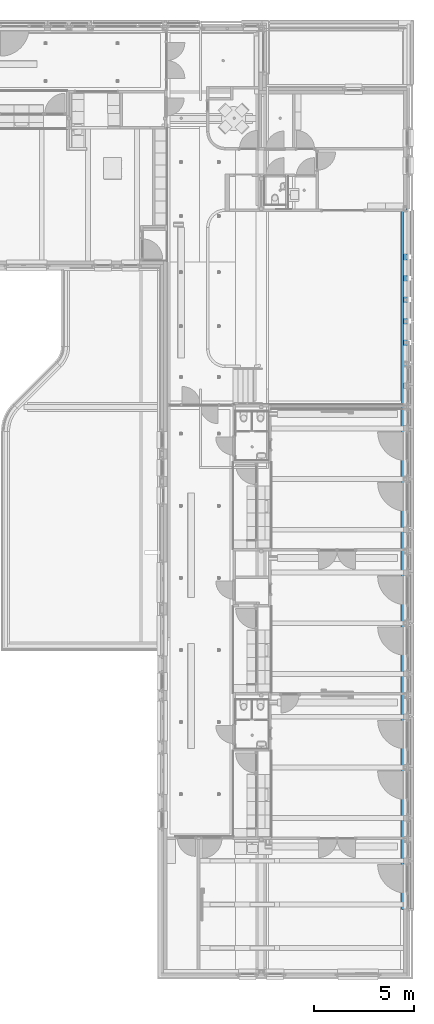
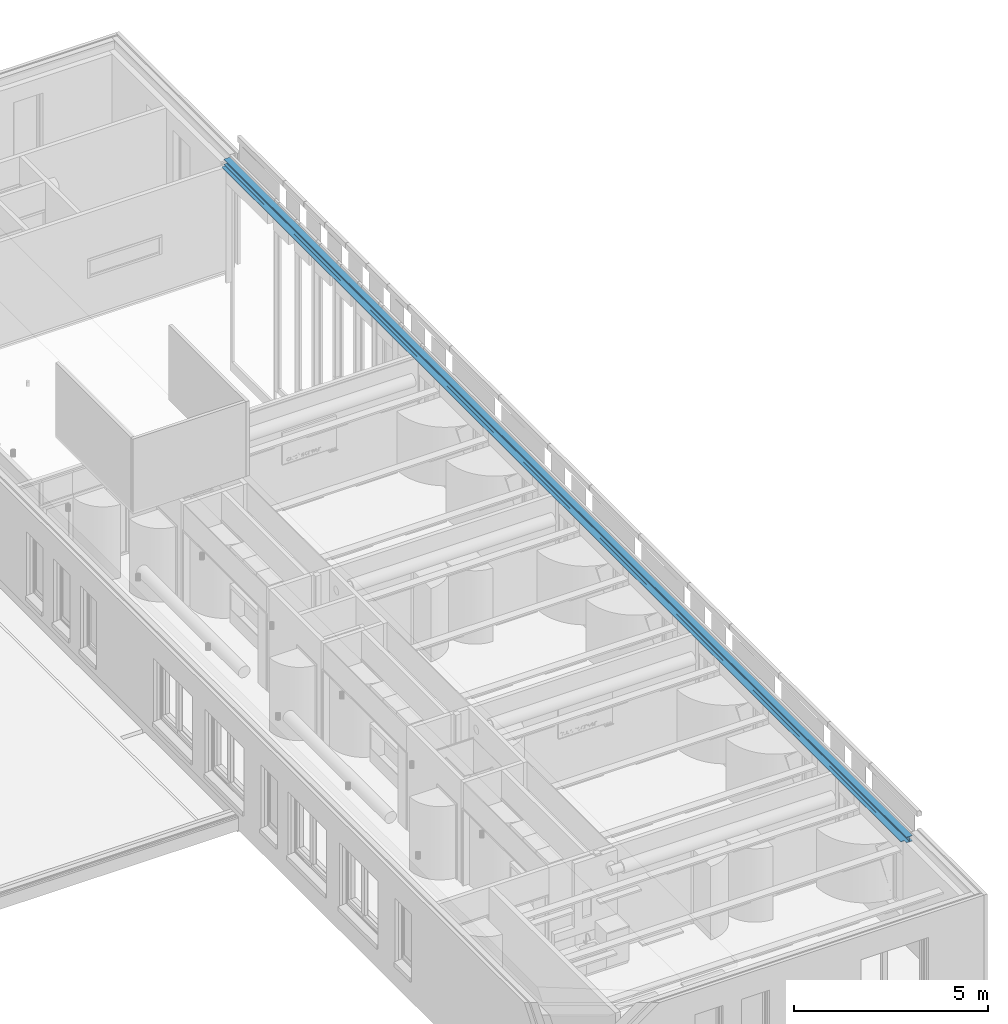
# One storey, part 10 of 128: 1 beam.
"""IFC2X3 building model written with IfcOpenShell, lengths in millimetres."""

import ifcopenshell
import ifcopenshell.guid

model = None  # the IFC model being written
_history = None  # IfcOwnerHistory: only IFC2X3 demands one
_inside = {}  # id of a spatial element -> (the spatial element, [elements in it])
_under = {}  # id of a project, library or spatial element -> (it, [spatial elements below it])
_declared = {}  # id of a project -> (the project, [libraries it declares])
_typed = {}  # id of a type object -> (the type object, [elements of that type])
_made_of = {}  # id of a material, layer set ... -> (it, [elements and type objects made of it])


def new_model(schema):
    """Start an empty IFC model of exactly this schema.

    Asked for "IFC4X3", IfcOpenShell would pick the latest addendum, in which some entities
    have other attributes; the version numbers below select the first issue.
    IFC2X3 requires an IfcOwnerHistory on every rooted entity: one is made here for all.
    """
    global model, _history
    if schema == "IFC4X3":
        model = ifcopenshell.file(schema_version=(4, 3, 0, 0))
    else:
        model = ifcopenshell.file(schema=schema)
    _inside.clear()
    _under.clear()
    _declared.clear()
    _typed.clear()
    _made_of.clear()
    _history = None
    if model.schema == "IFC2X3":
        org = make("IfcOrganization", Name="unknown")
        user = make(
            "IfcPersonAndOrganization",
            ThePerson=make("IfcPerson", FamilyName="unknown"),
            TheOrganization=org,
        )
        app = make(
            "IfcApplication",
            ApplicationDeveloper=org,
            Version="unknown",
            ApplicationFullName="unknown",
            ApplicationIdentifier="unknown",
        )
        _history = make(
            "IfcOwnerHistory",
            OwningUser=user,
            OwningApplication=app,
            ChangeAction="ADDED",
            CreationDate=0,
        )
    return model


def make(cls, **values):
    """One entity of the class cls with the attributes given. An attribute that is None is left unset."""
    return model.create_entity(
        cls, **{name: value for name, value in values.items() if value is not None}
    )


def entity(cls, *values):
    """Any entity or typed value of the class cls, its attributes in the order of the schema. None: left unset."""
    e = model.create_entity(cls)
    for i, value in enumerate(values):
        if value is not None:
            e[i] = value
    return e


def rooted(cls, **values):
    """An entity with a GlobalId (a new one), such as an element, a storey or a relation."""
    return make(cls, GlobalId=ifcopenshell.guid.new(), OwnerHistory=_history, **values)


def si_unit(unit_type, name, prefix=None):
    """IfcSIUnit, for example si_unit("LENGTHUNIT", "METRE", prefix="MILLI")."""
    return make("IfcSIUnit", UnitType=unit_type, Prefix=prefix, Name=name)


def converted_unit(unit_type, name, factor, base, dimensions=None, offset=None):
    """IfcConversionBasedUnit, such as the inch: factor (a typed value) times the base unit."""
    return make(
        "IfcConversionBasedUnit"
        if offset is None
        else "IfcConversionBasedUnitWithOffset",
        ConversionOffset=offset,
        Dimensions=None
        if dimensions is None
        else entity("IfcDimensionalExponents", *dimensions),
        UnitType=unit_type,
        Name=name,
        ConversionFactor=make(
            "IfcMeasureWithUnit", ValueComponent=factor, UnitComponent=base
        ),
    )


def derived_unit(unit_type, elements):
    """IfcDerivedUnit: a product of units, each with its exponent."""
    return make(
        "IfcDerivedUnit",
        Elements=[
            make("IfcDerivedUnitElement", Unit=unit, Exponent=power)
            for unit, power in elements
        ],
        UnitType=unit_type,
    )


def assignment(units):
    """IfcUnitAssignment: the units of a project."""
    return None if units is None else make("IfcUnitAssignment", Units=units)


def point(xyz):
    """IfcCartesianPoint."""
    return None if xyz is None else make("IfcCartesianPoint", Coordinates=xyz)


def direction(xyz):
    """IfcDirection."""
    return None if xyz is None else make("IfcDirection", DirectionRatios=xyz)


def frame(location, z_axis=None, x_axis=None):
    """IfcAxis2Placement3D, a coordinate frame: its origin and axes. An axis left out is left unset."""
    return make(
        "IfcAxis2Placement3D",
        Location=point(location),
        Axis=direction(z_axis),
        RefDirection=direction(x_axis),
    )


def frame_2d(location, x_axis=None):
    """IfcAxis2Placement2D, a coordinate frame in the plane: its origin and x axis."""
    return make(
        "IfcAxis2Placement2D", Location=point(location), RefDirection=direction(x_axis)
    )


def origin():
    """The frame at (0, 0, 0) with its axes left unset."""
    return frame((0.0, 0.0, 0.0))


def origin_2d_with_axis():
    """The frame at (0, 0) in the plane with the x axis (1, 0) written out."""
    return frame_2d((0.0, 0.0), x_axis=(1.0, 0.0))


def place(relative_to, where):
    """IfcLocalPlacement: puts the frame where relative to a parent placement (None: the world)."""
    return make(
        "IfcLocalPlacement", PlacementRelTo=relative_to, RelativePlacement=where
    )


def context(
    kind, dimensions, precision=None, world=None, true_north=None, identifier=None
):
    """IfcGeometricRepresentationContext, for example the 3D "Model" context."""
    return make(
        "IfcGeometricRepresentationContext",
        ContextIdentifier=identifier,
        ContextType=kind,
        CoordinateSpaceDimension=dimensions,
        Precision=precision,
        WorldCoordinateSystem=world,
        TrueNorth=true_north,
    )


def subcontext(parent, identifier, kind, view, scale=None):
    """IfcGeometricRepresentationSubContext, for example "Body" below "Model"."""
    return make(
        "IfcGeometricRepresentationSubContext",
        ContextIdentifier=identifier,
        ContextType=kind,
        ParentContext=parent,
        TargetScale=scale,
        TargetView=view,
    )


def project(units=None, contexts=None):
    """IfcProject with its units and contexts."""
    return rooted(
        "IfcProject",
        Name="project",
        RepresentationContexts=contexts,
        UnitsInContext=assignment(units),
    )


def spatial(cls, under=None, at=None, **own):
    """A site, building, storey or space (cls), placed at a placement, below another one or the project."""
    s = rooted(cls, ObjectPlacement=at, **own)
    if under is not None:
        _under.setdefault(under.id(), (under, []))[1].append(s)
    return s


def polyline(points):
    """IfcPolyline through the points."""
    return make("IfcPolyline", Points=[point(p) for p in points])


def circle_curve(where, radius):
    """IfcCircle in the frame where."""
    return make("IfcCircle", Position=where, Radius=radius)


def parameter(value):
    """IfcParameterValue: where a trimmed curve begins or ends, as a parameter of its basis curve."""
    return model.create_entity("IfcParameterValue", value)


def trimmed(basis, trim1, trim2, sense, master):
    """IfcTrimmedCurve: the piece of a basis curve between two trims."""
    return make(
        "IfcTrimmedCurve",
        BasisCurve=basis,
        Trim1=trim1,
        Trim2=trim2,
        SenseAgreement=sense,
        MasterRepresentation=master,
    )


def segment(curve, same_sense, transition):
    """IfcCompositeCurveSegment."""
    return make(
        "IfcCompositeCurveSegment",
        Transition=transition,
        SameSense=same_sense,
        ParentCurve=curve,
    )


def composite_curve(segments, self_intersect=None):
    """IfcCompositeCurve: segments joined end to end."""
    return make("IfcCompositeCurve", Segments=segments, SelfIntersect=self_intersect)


def profile(cls, at=None, kind="AREA", **sizes):
    """A parametric profile (cls). Its sizes go by their IFC names, for example OverallWidth=200.0."""
    return make(cls, ProfileType=kind, Position=at, **sizes)


def rectangle(**sizes):
    """IfcRectangleProfileDef."""
    return profile("IfcRectangleProfileDef", **sizes)


def outline(outer, holes=None, kind="AREA"):
    """IfcArbitraryClosedProfileDef: a profile drawn as a closed curve; with holes, ...WithVoids."""
    if holes is None:
        return make("IfcArbitraryClosedProfileDef", ProfileType=kind, OuterCurve=outer)
    return make(
        "IfcArbitraryProfileDefWithVoids",
        ProfileType=kind,
        OuterCurve=outer,
        InnerCurves=holes,
    )


def extrude(swept, where, along, depth):
    """IfcExtrudedAreaSolid: the profile swept, set in the frame where, extruded along a direction by depth."""
    return make(
        "IfcExtrudedAreaSolid",
        SweptArea=swept,
        Position=where,
        ExtrudedDirection=direction(along),
        Depth=depth,
    )


def shape(context_of_items, identifier, shape_type, items):
    """IfcShapeRepresentation: the items that make up one representation, for example the "Body"."""
    return make(
        "IfcShapeRepresentation",
        ContextOfItems=context_of_items,
        RepresentationIdentifier=identifier,
        RepresentationType=shape_type,
        Items=items,
    )


def source(mapping_origin, context_of_items, identifier, shape_type, items):
    """IfcRepresentationMap: a shape defined once, which mapped items show again and again."""
    return make(
        "IfcRepresentationMap",
        MappingOrigin=mapping_origin,
        MappedRepresentation=shape(context_of_items, identifier, shape_type, items),
    )


def transform(
    local_origin,
    x_axis=None,
    y_axis=None,
    z_axis=None,
    scale=None,
    scale2=None,
    scale3=None,
    uniform=True,
):
    """IfcCartesianTransformationOperator3D, or its non-uniform kind. x_axis, y_axis, z_axis: its Axis1, 2, 3."""
    if uniform:
        return make(
            "IfcCartesianTransformationOperator3D",
            Axis1=direction(x_axis),
            Axis2=direction(y_axis),
            LocalOrigin=point(local_origin),
            Scale=scale,
            Axis3=direction(z_axis),
        )
    return make(
        "IfcCartesianTransformationOperator3DnonUniform",
        Axis1=direction(x_axis),
        Axis2=direction(y_axis),
        LocalOrigin=point(local_origin),
        Scale=scale,
        Axis3=direction(z_axis),
        Scale2=scale2,
        Scale3=scale3,
    )


def mapped(mapping_source, mapping_target):
    """IfcMappedItem: shows the shape of a source again, moved by a transform."""
    return make(
        "IfcMappedItem", MappingSource=mapping_source, MappingTarget=mapping_target
    )


def material(Name=None, Category=None):
    """IfcMaterial."""
    return make("IfcMaterial", Name=Name, Category=Category)


def made_of(thing, what):
    """Note that an element or type object is made of a material, layer set ...; save() writes the relation."""
    if what is not None:
        _made_of.setdefault(what.id(), (what, []))[1].append(thing)
    return thing


def type_object(cls, material=None, **own):
    """A type object (cls), such as IfcWallType, which elements share."""
    return made_of(rooted(cls, **own), material)


def type_shapes(of_type, sources):
    """Give a type object the sources (RepresentationMaps) that its elements show as mapped items."""
    of_type.RepresentationMaps = sources


def element(
    cls,
    number,
    at=None,
    inside=None,
    cuts=None,
    type_object=None,
    material=None,
    context=None,
    identifier="Body",
    shape_type=None,
    held_by="IfcProductDefinitionShape",
    body=None,
    shapes=None,
    **own,
):
    """One element of the class cls, such as IfcWall. Its Tag is "e" and its number.

    at: its placement. inside: the storey or other place that contains it. cuts: it is an
    opening in that element (IfcRelVoidsElement). A single representation is given by context,
    identifier, shape_type and body (its items); several are given by shapes. held_by: the class
    of the entity that holds the representations. save() writes the other relations.
    """
    e = rooted(cls, Tag="e%d" % number, ObjectPlacement=at, **own)
    if body is not None:
        shapes = [shape(context, identifier, shape_type, body)]
    if shapes is not None:
        e.Representation = make(held_by, Representations=shapes)
    if inside is not None:
        _inside.setdefault(inside.id(), (inside, []))[1].append(e)
    if cuts is not None:
        rooted(
            "IfcRelVoidsElement", RelatingBuildingElement=cuts, RelatedOpeningElement=e
        )
    if type_object is not None:
        _typed.setdefault(type_object.id(), (type_object, []))[1].append(e)
    return made_of(e, material)


def aggregate(whole, parts):
    """IfcRelAggregates: a whole, such as a stair, and the parts it consists of."""
    return rooted("IfcRelAggregates", RelatingObject=whole, RelatedObjects=parts)


def save(model, path):
    """Write the relations noted so far, then the file.

    IfcRelAggregates (storeys below a building ...), IfcRelContainedInSpatialStructure (elements
    in a storey), IfcRelDefinesByType, IfcRelAssociatesMaterial and IfcRelDeclares: one each for
    every whole, place, type object, material and project.
    """
    for whole, parts in _under.values():
        aggregate(whole, parts)
    for where, things in _inside.values():
        rooted(
            "IfcRelContainedInSpatialStructure",
            RelatedElements=things,
            RelatingStructure=where,
        )
    for kind, things in _typed.values():
        rooted("IfcRelDefinesByType", RelatedObjects=things, RelatingType=kind)
    for what, things in _made_of.values():
        rooted("IfcRelAssociatesMaterial", RelatedObjects=things, RelatingMaterial=what)
    for by, libraries in _declared.values():
        rooted("IfcRelDeclares", RelatingContext=by, RelatedDefinitions=libraries)
    model.write(path)


model = new_model("IFC2X3")

# Units and contexts
model_context = context("Model", 3, precision=0.01, world=origin(), true_north=direction((6.123031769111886e-17, 1.0)))
body_context = subcontext(model_context, "Body", "Model", "MODEL_VIEW")
ifc_project = project(units=[si_unit("LENGTHUNIT", "METRE", prefix="MILLI"), si_unit("AREAUNIT", "SQUARE_METRE"), si_unit("VOLUMEUNIT", "CUBIC_METRE"), converted_unit("PLANEANGLEUNIT", "DEGREE", entity("IfcRatioMeasure", 0.017453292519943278), si_unit("PLANEANGLEUNIT", "RADIAN"), dimensions=[0, 0, 0, 0, 0, 0, 0]), si_unit("MASSUNIT", "GRAM", prefix="KILO"), derived_unit("MASSDENSITYUNIT", [(si_unit("MASSUNIT", "GRAM", prefix="KILO"), 1), (si_unit("LENGTHUNIT", "METRE"), -3)]), derived_unit("IONCONCENTRATIONUNIT", [(si_unit("MASSUNIT", "GRAM", prefix="KILO"), 1), (si_unit("LENGTHUNIT", "METRE"), -3)]), derived_unit("MOMENTOFINERTIAUNIT", [(si_unit("LENGTHUNIT", "METRE"), 4)]), si_unit("TIMEUNIT", "SECOND"), si_unit("FREQUENCYUNIT", "HERTZ"), si_unit("THERMODYNAMICTEMPERATUREUNIT", "DEGREE_CELSIUS"), derived_unit("THERMALTRANSMITTANCEUNIT", [(si_unit("MASSUNIT", "GRAM", prefix="KILO"), 1), (si_unit("THERMODYNAMICTEMPERATUREUNIT", "KELVIN"), -1), (si_unit("TIMEUNIT", "SECOND"), -3)]), derived_unit("THERMALCONDUCTANCEUNIT", [(si_unit("MASSUNIT", "GRAM", prefix="KILO"), 1), (si_unit("THERMODYNAMICTEMPERATUREUNIT", "KELVIN"), -1), (si_unit("TIMEUNIT", "SECOND"), -3), (si_unit("LENGTHUNIT", "METRE"), 1)]), derived_unit("VOLUMETRICFLOWRATEUNIT", [(si_unit("LENGTHUNIT", "METRE"), 3), (si_unit("TIMEUNIT", "SECOND"), -1)]), derived_unit("MASSFLOWRATEUNIT", [(si_unit("MASSUNIT", "GRAM", prefix="KILO"), 1), (si_unit("TIMEUNIT", "SECOND"), -1)]), derived_unit("ROTATIONALFREQUENCYUNIT", [(si_unit("TIMEUNIT", "SECOND"), -1)]), si_unit("ELECTRICCURRENTUNIT", "AMPERE"), si_unit("ELECTRICVOLTAGEUNIT", "VOLT"), si_unit("POWERUNIT", "WATT"), si_unit("FORCEUNIT", "NEWTON", prefix="KILO"), si_unit("ILLUMINANCEUNIT", "LUX"), si_unit("LUMINOUSFLUXUNIT", "LUMEN"), si_unit("LUMINOUSINTENSITYUNIT", "CANDELA"), derived_unit("USERDEFINED", [(si_unit("MASSUNIT", "GRAM", prefix="KILO"), -1), (si_unit("LENGTHUNIT", "METRE"), -2), (si_unit("TIMEUNIT", "SECOND"), 3), (si_unit("LUMINOUSFLUXUNIT", "LUMEN"), 1)]), derived_unit("USERDEFINED", [(si_unit("MASSUNIT", "GRAM", prefix="KILO"), 1), (si_unit("TIMEUNIT", "SECOND"), -3), (si_unit("LENGTHUNIT", "METRE"), 3), (si_unit("ELECTRICCURRENTUNIT", "AMPERE"), -2)]), derived_unit("SOUNDPOWERUNIT", [(si_unit("MASSUNIT", "GRAM", prefix="KILO"), 1), (si_unit("TIMEUNIT", "SECOND"), -3), (si_unit("LENGTHUNIT", "METRE"), 2)]), derived_unit("SOUNDPRESSUREUNIT", [(si_unit("MASSUNIT", "GRAM", prefix="KILO"), 1), (si_unit("LENGTHUNIT", "METRE"), -1), (si_unit("TIMEUNIT", "SECOND"), -2)]), derived_unit("LINEARVELOCITYUNIT", [(si_unit("LENGTHUNIT", "METRE"), 1), (si_unit("TIMEUNIT", "SECOND"), -1)]), si_unit("PRESSUREUNIT", "PASCAL"), derived_unit("USERDEFINED", [(si_unit("MASSUNIT", "GRAM", prefix="KILO"), 1), (si_unit("LENGTHUNIT", "METRE"), -2), (si_unit("TIMEUNIT", "SECOND"), -2)]), derived_unit("LINEARFORCEUNIT", [(si_unit("MASSUNIT", "GRAM", prefix="KILO"), 1), (si_unit("TIMEUNIT", "SECOND"), -2)]), derived_unit("PLANARFORCEUNIT", [(si_unit("MASSUNIT", "GRAM", prefix="KILO"), 1), (si_unit("LENGTHUNIT", "METRE"), -1), (si_unit("TIMEUNIT", "SECOND"), -2)]), derived_unit("SPECIFICHEATCAPACITYUNIT", [(si_unit("THERMODYNAMICTEMPERATUREUNIT", "KELVIN"), -1), (si_unit("LENGTHUNIT", "METRE"), 2), (si_unit("TIMEUNIT", "SECOND"), -2)]), derived_unit("HEATINGVALUEUNIT", [(si_unit("LENGTHUNIT", "METRE"), 2), (si_unit("TIMEUNIT", "SECOND"), -2)]), derived_unit("VAPORPERMEABILITYUNIT", [(si_unit("LENGTHUNIT", "METRE"), -1), (si_unit("TIMEUNIT", "SECOND"), 1)]), derived_unit("DYNAMICVISCOSITYUNIT", [(si_unit("MASSUNIT", "GRAM", prefix="KILO"), 1), (si_unit("TIMEUNIT", "SECOND"), -1), (si_unit("LENGTHUNIT", "METRE"), -1)]), derived_unit("THERMALEXPANSIONCOEFFICIENTUNIT", [(si_unit("THERMODYNAMICTEMPERATUREUNIT", "KELVIN"), -1)]), derived_unit("MODULUSOFELASTICITYUNIT", [(si_unit("MASSUNIT", "GRAM", prefix="KILO"), 1), (si_unit("LENGTHUNIT", "METRE"), -1), (si_unit("TIMEUNIT", "SECOND"), -2)]), derived_unit("ISOTHERMALMOISTURECAPACITYUNIT", [(si_unit("LENGTHUNIT", "METRE"), 3), (si_unit("MASSUNIT", "GRAM", prefix="KILO"), -1)]), derived_unit("MOISTUREDIFFUSIVITYUNIT", [(si_unit("TIMEUNIT", "SECOND"), -1), (si_unit("LENGTHUNIT", "METRE"), 2)])], contexts=[model_context])

# Site, building, storey
site_placement = place(None, frame((0.0, 300.0, 0.0)))
site = spatial("IfcSite", under=ifc_project, at=site_placement, Name="<Kadastrale nummers>", CompositionType="ELEMENT")
building_placement = place(site_placement, origin())
building = spatial("IfcBuilding", under=site, at=building_placement, CompositionType="ELEMENT")
storey_placement = place(building_placement, frame((0.0, 0.0, 3560.0000331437)))
storey = spatial("IfcBuildingStorey", under=building, at=storey_placement, Name="01 eerste verdieping", CompositionType="ELEMENT", Elevation=3560.0000331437)

# Beam
ifc_material = material(Name="h2_staal S235")
beam_type = type_object("IfcBeamType", Name="NLRS_28_SF_LIB_balk sfb_gen_ISR:balk gen hea180 400x15", PredefinedType="T_BEAM", material=ifc_material)
shared_shape = source(origin(), body_context, "Body", "SweptSolid", [
    extrude(outline(composite_curve([segment(polyline([(76.0, -90.0), (85.49999999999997, -90.0)]), True, "CONTINUOUS"), segment(polyline([(85.49999999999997, -90.0), (85.49999999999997, 90.0)]), True, "CONTINUOUS"), segment(polyline([(85.49999999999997, 90.0), (76.0, 90.0)]), True, "CONTINUOUS"), segment(polyline([(76.0, 90.0), (76.0, 18.0)]), True, "CONTINUOUS"), segment(trimmed(circle_curve(frame_2d((61.0, 18.0), x_axis=(1.0, 0.0)), 15.000000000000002), [parameter(269.99999999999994)], [parameter(0.0)], True, "PARAMETER"), False, "CONTINUOUS"), segment(polyline([(61.0, 3.0), (-61.0, 3.0)]), True, "CONTINUOUS"), segment(trimmed(circle_curve(frame_2d((-61.0, 18.0), x_axis=(0.0, -1.0)), 15.000000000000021), [parameter(269.9999999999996)], [parameter(0.0)], True, "PARAMETER"), False, "CONTINUOUS"), segment(polyline([(-76.0, 18.0), (-76.0, 90.0)]), True, "CONTINUOUS"), segment(polyline([(-76.0, 90.0), (-85.49999999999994, 90.0)]), True, "CONTINUOUS"), segment(polyline([(-85.49999999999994, 90.0), (-85.49999999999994, -90.0)]), True, "CONTINUOUS"), segment(polyline([(-85.49999999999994, -90.0), (-76.0, -90.0)]), True, "CONTINUOUS"), segment(polyline([(-76.0, -90.0), (-76.0, -18.0)]), True, "CONTINUOUS"), segment(trimmed(circle_curve(frame_2d((-61.0, -18.0), x_axis=(-1.0, 0.0)), 15.000000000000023), [parameter(269.99999999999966)], [parameter(0.0)], True, "PARAMETER"), False, "CONTINUOUS"), segment(polyline([(-61.0, -3.0), (61.0, -3.0)]), True, "CONTINUOUS"), segment(trimmed(circle_curve(frame_2d((61.0, -18.0), x_axis=(0.0, 1.0)), 15.000000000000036), [parameter(270.00000000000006)], [parameter(0.0)], True, "PARAMETER"), False, "CONTINUOUS"), segment(polyline([(76.0, -18.0), (76.0, -90.0)]), True, "CONTINUOUS")], self_intersect=False)), frame((-15599.999737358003, 0.0, 36.49999999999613), z_axis=(1.0, 0.0, 0.0), x_axis=(0.0, 0.0, -1.0)), (0.0, 0.0, 1.0), 35126.285502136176),
    extrude(rectangle(XDim=15.00000000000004, YDim=280.0000000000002, at=origin_2d_with_axis()), frame((-15537.039868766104, -50.0, -56.50000000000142), z_axis=(1.0, 0.0, 0.0), x_axis=(0.0, 0.0, -1.0)), (0.0, 0.0, 1.0), 34943.32563354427),
])
type_shapes(beam_type, [shared_shape])
beam_placement = place(storey_placement, frame((48600.0, 25199.99973735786, 3379.0), z_axis=(0.0, 0.0, 1.0), x_axis=(0.0, -1.0, 0.0)))
element("IfcBeam", 1, at=beam_placement, inside=storey, type_object=beam_type, material=ifc_material, Name="NLRS_28_SF_LIB_balk sfb_gen_ISR:balk gen hea180 400x15", ObjectType="NLRS_28_SF_LIB_balk sfb_gen_ISR:balk gen hea180 400x15", context=body_context, shape_type="MappedRepresentation", body=[
    mapped(shared_shape, transform((0.0, 0.0, 0.0), scale=1.0)),
])

save(model, "model.ifc")
